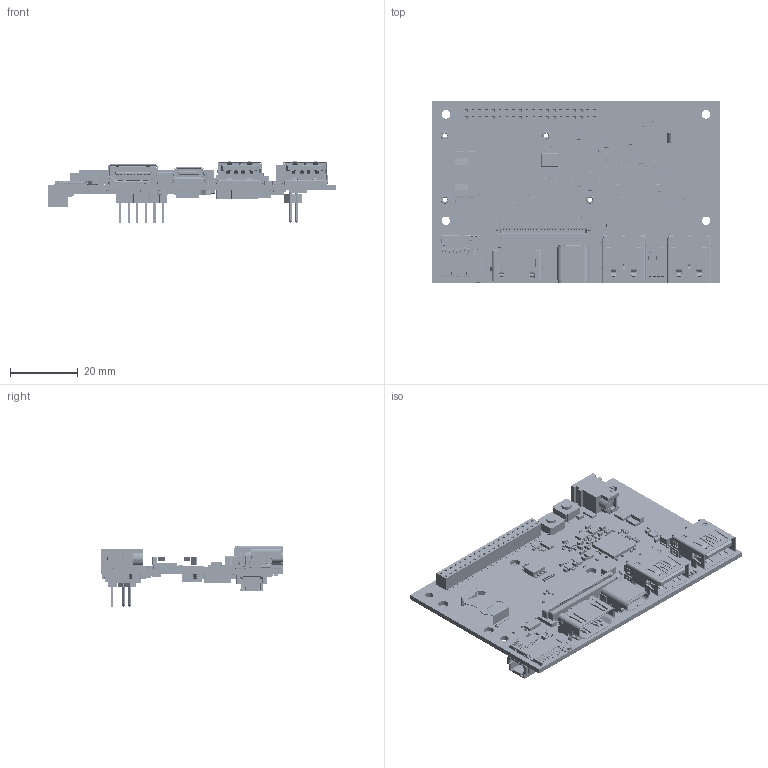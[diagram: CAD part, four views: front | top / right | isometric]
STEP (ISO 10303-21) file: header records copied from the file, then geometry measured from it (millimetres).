
FILE_DESCRIPTION((''),'2;1');
FILE_NAME('JOULE_96BOARD','2017-03-07T',('smceuen'),('INTEL'),'CREO PARAMETRIC BY PTC INC, 2015380','CREO PARAMETRIC BY PTC INC, 2015380','');
FILE_SCHEMA(('CONFIG_CONTROL_DESIGN'));
Products named in the file (1): JOULE_96BOARD
Bounding box: 85 x 54 x 18.09 mm (x, y, z)
Volume: 11816.6 mm3; surface area: 21043 mm2
Topology: 1 solids, 17 shells, 19917 faces, 52729 edges, 33042 vertices
Faces by surface type: plane 12237, cylinder 6104, bspline 1066, cone 250, torus 248, extrusion 8, sphere 4
Entity records: 637444 total; most frequent: CARTESIAN_POINT 142775, ORIENTED_EDGE 105438, DIRECTION 99438, EDGE_CURVE 52719, VECTOR 39352, LINE 39344, VERTEX_POINT 33042, AXIS2_PLACEMENT_3D 30043
